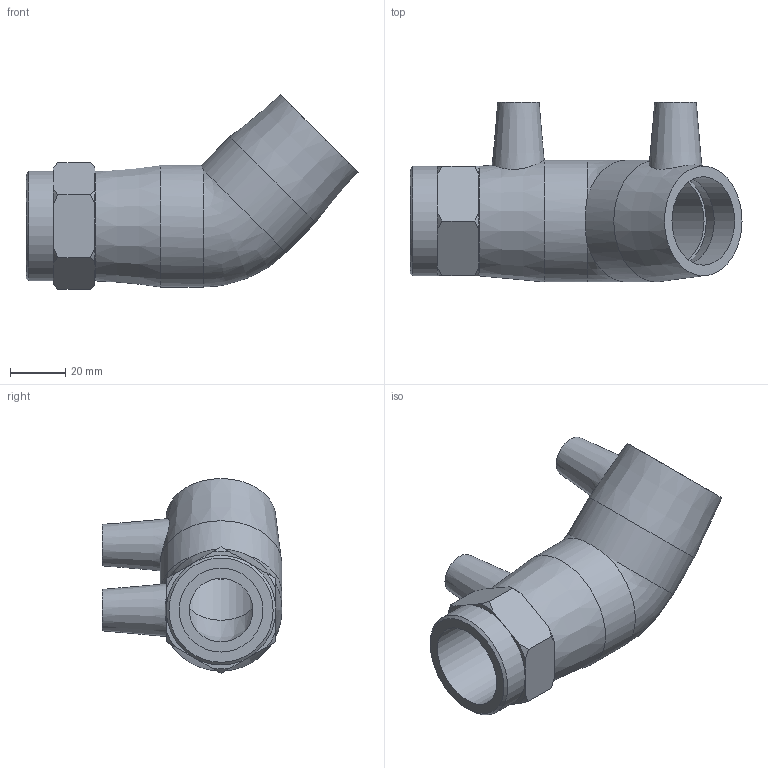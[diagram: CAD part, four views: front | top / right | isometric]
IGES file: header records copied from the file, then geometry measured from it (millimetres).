
Global section: file name: 493604032010.ipt; native system: Autodesk Inventor 2015; preprocessor: unknown; author: KIM; date: 20200202.122453; units: millimetre
Bounding box: 120 x 65 x 70.41 mm (x, y, z)
Volume: 102393.7 mm3; surface area: 33781.8 mm2
Topology: 1 solids, 2 shells, 61 faces, 150 edges, 100 vertices
Faces by surface type: plane 27, cone 17, revolution 9, cylinder 7, bspline 1
Full cylindrical faces by diameter (mm): 4 x2, 32 x2, 39.6 x1, 44 x2
